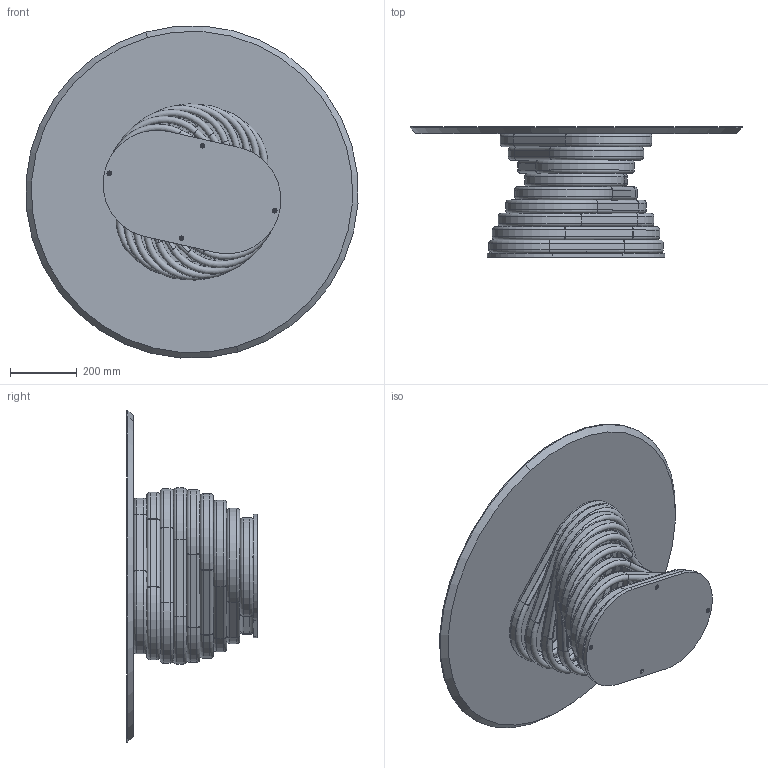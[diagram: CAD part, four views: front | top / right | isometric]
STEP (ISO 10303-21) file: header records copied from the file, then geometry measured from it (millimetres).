
FILE_DESCRIPTION (( 'STEP AP203' ), '1' );
FILE_NAME ('RL03W.STEP', '2024-08-06T12:35:50', ( '' ), ( '' ), 'SwSTEP 2.0', 'SolidWorks 2022', '' );
FILE_SCHEMA (( 'CONFIG_CONTROL_DESIGN' ));
Length unit declared in the file: millimetre
Products named in the file (7): RLBP000000INT-00-ANELLO INTERMEDIO._Default<A macchina>; RL03W; RLBP000000-00-ROTOLO LOW PIASTRA; W1XCMXX-00-Piani Rotondi legno_D.1000 SP.20cm; RLB1000000-00-ROTOLO LOW 9 ANELLI; RLBP000000SUP-00-ANELLO CON PIASTRA SUPERIORE_Default<A macchina>; RLBP000000INF-00-ANELLO INFERIORE FILETTATO_Default<A macchina>
Assembly tree (12 placements, depth 3):
  RL03W
    RLB1000000-00-ROTOLO LOW 9 ANELLI
      RLBP000000INF-00-ANELLO INFERIORE FILETTATO_Default<A macchina>
      RLBP000000INT-00-ANELLO INTERMEDIO._Default<A macchina>  x7
      RLBP000000SUP-00-ANELLO CON PIASTRA SUPERIORE_Default<A macchina>
    RLBP000000-00-ROTOLO LOW PIASTRA
    W1XCMXX-00-Piani Rotondi legno_D.1000 SP.20cm
Bounding box: 997.66 x 392 x 997.66 mm (x, y, z)
Volume: 19494958.2 mm3; surface area: 4310234.9 mm2
Topology: 40 solids, 40 shells, 460 faces, 1122 edges, 736 vertices
Faces by surface type: cylinder 192, plane 170, torus 72, cone 24, bspline 2
Entity records: 7881 total; most frequent: CARTESIAN_POINT 1898, DIRECTION 1120, ORIENTED_EDGE 1004, EDGE_CURVE 502, AXIS2_PLACEMENT_3D 436, VERTEX_POINT 328, EDGE_LOOP 254, LINE 248
